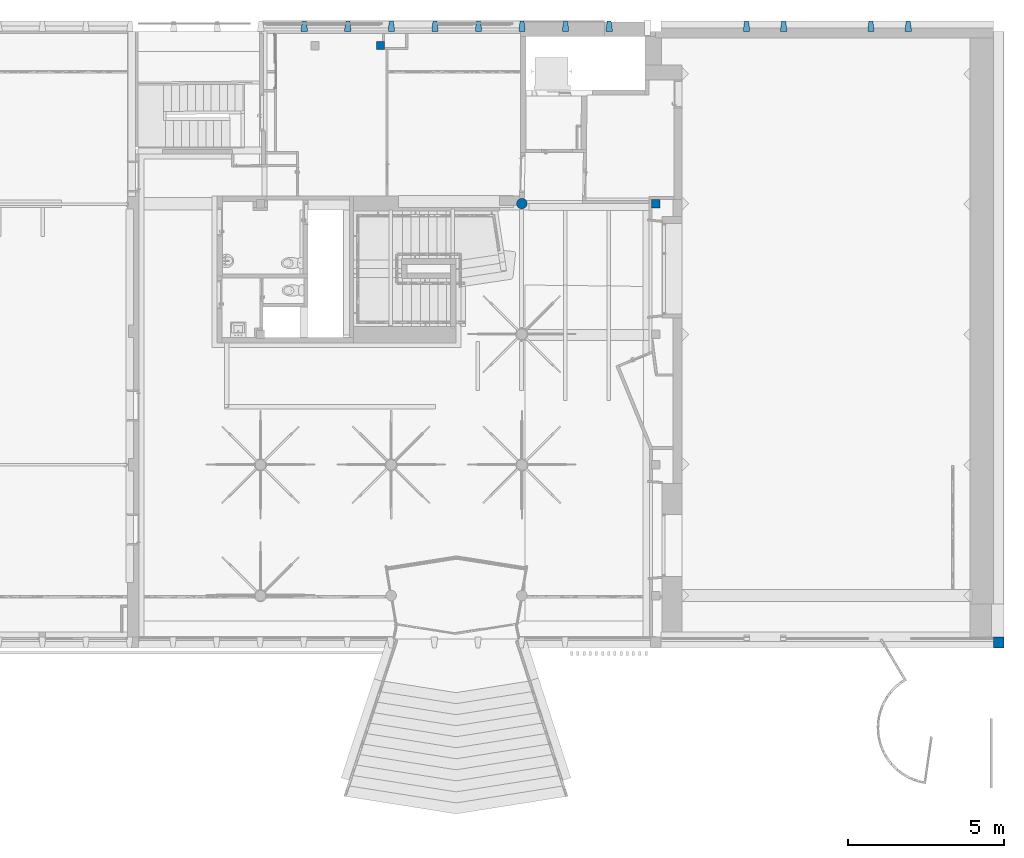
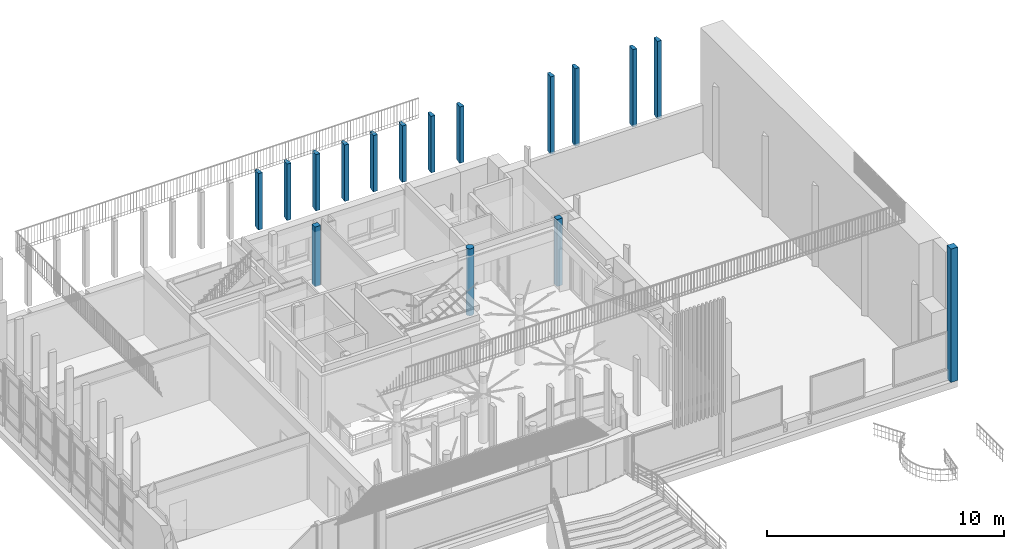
# One storey, part 3 of 65: 16 columns.
"""IFC4 building model written with IfcOpenShell, lengths in metres."""

from ifc_helpers import new_model, entity, si_unit, converted_unit, derived_unit, direction, frame, origin, place, context, subcontext, project, spatial, indexed_curve, outline, extrude, source, transform, mapped, material, material_list, type_object, type_shapes, element, save


model = new_model("IFC4")

# Units and contexts
model_context = context("Model", 3, precision=1e-05, world=origin(), true_north=direction((6.12303176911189e-17, 1.0)))
body_context = subcontext(model_context, "Body", "Model", "MODEL_VIEW")
ifc_project = project(units=[si_unit("LENGTHUNIT", "METRE"), si_unit("AREAUNIT", "SQUARE_METRE"), si_unit("VOLUMEUNIT", "CUBIC_METRE"), converted_unit("PLANEANGLEUNIT", "DEGREE", entity("IfcRatioMeasure", 0.0174532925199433), si_unit("PLANEANGLEUNIT", "RADIAN"), dimensions=[0, 0, 0, 0, 0, 0, 0]), si_unit("MASSUNIT", "GRAM", prefix="KILO"), derived_unit("MASSDENSITYUNIT", [(si_unit("MASSUNIT", "GRAM", prefix="KILO"), 1), (si_unit("LENGTHUNIT", "METRE"), -3)]), derived_unit("MOMENTOFINERTIAUNIT", [(si_unit("LENGTHUNIT", "METRE"), 4)]), si_unit("TIMEUNIT", "SECOND"), si_unit("FREQUENCYUNIT", "HERTZ"), si_unit("THERMODYNAMICTEMPERATUREUNIT", "DEGREE_CELSIUS"), derived_unit("THERMALTRANSMITTANCEUNIT", [(si_unit("MASSUNIT", "GRAM", prefix="KILO"), 1), (si_unit("THERMODYNAMICTEMPERATUREUNIT", "KELVIN"), -1), (si_unit("TIMEUNIT", "SECOND"), -3)]), derived_unit("VOLUMETRICFLOWRATEUNIT", [(si_unit("LENGTHUNIT", "METRE"), 3), (si_unit("TIMEUNIT", "SECOND"), -1)]), si_unit("ELECTRICCURRENTUNIT", "AMPERE"), si_unit("ELECTRICVOLTAGEUNIT", "VOLT"), si_unit("POWERUNIT", "WATT"), si_unit("FORCEUNIT", "NEWTON", prefix="KILO"), si_unit("ILLUMINANCEUNIT", "LUX"), si_unit("LUMINOUSFLUXUNIT", "LUMEN"), si_unit("LUMINOUSINTENSITYUNIT", "CANDELA"), derived_unit("USERDEFINED", [(si_unit("MASSUNIT", "GRAM", prefix="KILO"), -1), (si_unit("LENGTHUNIT", "METRE"), -2), (si_unit("TIMEUNIT", "SECOND"), 3), (si_unit("LUMINOUSFLUXUNIT", "LUMEN"), 1)]), derived_unit("LINEARVELOCITYUNIT", [(si_unit("LENGTHUNIT", "METRE"), 1), (si_unit("TIMEUNIT", "SECOND"), -1)]), si_unit("PRESSUREUNIT", "PASCAL"), derived_unit("USERDEFINED", [(si_unit("LENGTHUNIT", "METRE"), -2), (si_unit("MASSUNIT", "GRAM", prefix="KILO"), 1), (si_unit("TIMEUNIT", "SECOND"), -2)]), derived_unit("LINEARFORCEUNIT", [(si_unit("MASSUNIT", "GRAM", prefix="KILO"), 1), (si_unit("LENGTHUNIT", "METRE"), 1), (si_unit("TIMEUNIT", "SECOND"), -2), (si_unit("LENGTHUNIT", "METRE"), -1)]), derived_unit("PLANARFORCEUNIT", [(si_unit("MASSUNIT", "GRAM", prefix="KILO"), 1), (si_unit("LENGTHUNIT", "METRE"), 1), (si_unit("TIMEUNIT", "SECOND"), -2), (si_unit("LENGTHUNIT", "METRE"), -2)])], contexts=[model_context])

# Site, building, storey
site_placement = place(None, origin())
site = spatial("IfcSite", under=ifc_project, at=site_placement, Name="Default", CompositionType="ELEMENT")
building_placement = place(site_placement, origin())
building = spatial("IfcBuilding", under=site, at=building_placement, Name="HOTEL CONSULAIRE BOULOGNE SUR MER", CompositionType="ELEMENT")
storey_placement = place(building_placement, origin())
storey = spatial("IfcBuildingStorey", under=building, at=storey_placement, Name="Niveau 0", CompositionType="ELEMENT", Elevation=1.31981936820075e-13)

# Columns
ifc_material_1 = material(Name="Maçonnerie - Béton coulé sur place", Category="Béton")
column_type_1 = type_object("IfcColumnType", Name="Poteau béton - Arrondi:340", PredefinedType="COLUMN", material=ifc_material_1)
shared_shape_1 = source(origin(), body_context, "Body", "SweptSolid", [
    extrude(outline(indexed_curve([(0.169999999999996, 0.0), (0.161679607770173, 0.0525328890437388), (0.137532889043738, 0.0999234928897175), (0.0999234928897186, 0.137532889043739), (0.0525328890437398, 0.161679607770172), (0.0, 0.169999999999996), (-0.0525328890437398, 0.161679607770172), (-0.0999234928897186, 0.137532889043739), (-0.137532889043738, 0.0999234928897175), (-0.161679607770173, 0.0525328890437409), (-0.169999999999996, 0.0), (-0.161679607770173, -0.0525328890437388), (-0.137532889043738, -0.0999234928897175), (-0.0999234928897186, -0.137532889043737), (-0.0525328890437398, -0.161679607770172), (0.0, -0.169999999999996), (0.0525328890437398, -0.161679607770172), (0.0999234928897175, -0.137532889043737), (0.137532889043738, -0.0999234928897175), (0.161679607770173, -0.0525328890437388), (0.169999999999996, 0.0)], self_intersect=False)), frame((7.17117677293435, -15.615909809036, -0.0199999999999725)), (0.0, 0.0, 1.0), 3.44152697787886),
])
type_shapes(column_type_1, [shared_shape_1])
column_1_placement = place(storey_placement, origin())
element("IfcColumn", 1, at=column_1_placement, inside=storey, type_object=column_type_1, material=ifc_material_1, Name="Poteau béton - Arrondi:340", ObjectType="Poteau béton - Arrondi:340", PredefinedType="COLUMN", context=body_context, shape_type="MappedRepresentation", body=[
    mapped(shared_shape_1, transform((0.0, 0.0, 0.0), scale=1.0)),
])
column_type_2 = type_object("IfcColumnType", Name="Poteau béton - Rectangulaire:270x270", PredefinedType="COLUMN", material=ifc_material_1)
shared_shape_2 = source(origin(), body_context, "Body", "SweptSolid", [
    extrude(outline(indexed_curve([(-0.135, -0.135), (0.135, -0.135), (0.135, 0.135), (-0.135, 0.135), (-0.135, -0.135)], self_intersect=False)), frame((2.62811770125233, -10.5359187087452, -0.0199999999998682), z_axis=(0.0, 0.0, 1.0), x_axis=(0.0, -1.0, 0.0)), (0.0, 0.0, 1.0), 3.0711269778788),
])
type_shapes(column_type_2, [shared_shape_2])
column_2_placement = place(storey_placement, origin())
element("IfcColumn", 2, at=column_2_placement, inside=storey, type_object=column_type_2, material=ifc_material_1, Name="Poteau béton - Rectangulaire:270x270", ObjectType="Poteau béton - Rectangulaire:270x270", PredefinedType="COLUMN", context=body_context, shape_type="MappedRepresentation", body=[
    mapped(shared_shape_2, transform((0.0, 0.0, 0.0), scale=1.0)),
])
ifc_material_2 = material(Name="peinture bleu")
ifc_material_list_1 = material_list([ifc_material_1, ifc_material_2])
column_type_3 = type_object("IfcColumnType", Name="Poteau béton - Rectangulaire:340x340", PredefinedType="COLUMN", material=ifc_material_list_1)
shared_shape_3 = source(origin(), body_context, "Body", "SweptSolid", [
    extrude(outline(indexed_curve([(-0.17, -0.17), (0.17, -0.17), (0.17, 0.17), (-0.17, 0.17), (-0.17, -0.17)], self_intersect=False)), frame((22.4986382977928, -29.7240671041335, -0.219999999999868), z_axis=(0.0, 0.0, 1.0), x_axis=(0.0, -1.0, 0.0)), (0.0, 0.0, 1.0), 6.85199999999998),
])
type_shapes(column_type_3, [shared_shape_3])
column_3_placement = place(storey_placement, origin())
element("IfcColumn", 3, at=column_3_placement, inside=storey, type_object=column_type_3, material=ifc_material_2, Name="Poteau béton - Rectangulaire:340x340", ObjectType="Poteau béton - Rectangulaire:340x340", PredefinedType="COLUMN", context=body_context, shape_type="MappedRepresentation", body=[
    mapped(shared_shape_3, transform((0.0, 0.0, 0.0), scale=1.0)),
])
ifc_material_3 = material(Name="Finition Peinture - Blanc satiné", Category="Peinture")
ifc_material_4 = material(Name="<Unnamed>")
ifc_material_list_2 = material_list([ifc_material_3, ifc_material_4])
column_type_4 = type_object("IfcColumnType", Name="Poteaux porteurs 52:Poteaux porteurs 1", PredefinedType="COLUMN", material=ifc_material_list_2)
shared_shape_4 = source(origin(), body_context, "Body", "SweptSolid", [
    extrude(outline(indexed_curve([(-0.140333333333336, -0.100000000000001), (-0.0593333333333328, -0.100000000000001), (0.199666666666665, -0.0611499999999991), (0.199666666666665, 0.0611499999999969), (-0.0593333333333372, 0.0999999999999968), (-0.140333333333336, 0.0999999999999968), (-0.140333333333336, -0.100000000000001)], self_intersect=False)), frame((-11.0414199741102, -29.6944004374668, 2.30400000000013), z_axis=(0.0, 0.0, 1.0), x_axis=(0.0, -1.0, 0.0)), (0.0, 0.0, 1.0), 3.98799999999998),
])
type_shapes(column_type_4, [shared_shape_4])
column_4_placement = place(storey_placement, frame((8.54816005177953, -39.6397356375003, 0.0), z_axis=(0.0, 0.0, 1.0), x_axis=(-1.0, 0.0, 0.0)))
element("IfcColumn", 4, at=column_4_placement, inside=storey, type_object=column_type_4, material=ifc_material_3, Name="Poteaux porteurs 52:Poteaux porteurs 1", ObjectType="Poteaux porteurs 52:Poteaux porteurs 1", PredefinedType="COLUMN", context=body_context, shape_type="MappedRepresentation", body=[
    mapped(shared_shape_4, transform((0.0, 0.0, 0.0), scale=1.0)),
])
ifc_material_list_3 = material_list([ifc_material_4, ifc_material_3])
column_type_5 = type_object("IfcColumnType", Name="Poteaux porteurs 55:Poteaux porteurs 1", PredefinedType="COLUMN", material=ifc_material_list_3)
shared_shape_5 = source(origin(), body_context, "Body", "SweptSolid", [
    extrude(outline(indexed_curve([(-0.140333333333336, -0.100000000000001), (-0.0593333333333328, -0.100000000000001), (0.199666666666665, -0.0611499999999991), (0.199666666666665, 0.0611499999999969), (-0.0593333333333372, 0.0999999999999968), (-0.140333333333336, 0.0999999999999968), (-0.140333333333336, -0.100000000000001)], self_intersect=False)), frame((-11.0414199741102, -29.6944004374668, 2.30400000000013), z_axis=(0.0, 0.0, 1.0), x_axis=(0.0, -1.0, 0.0)), (0.0, 0.0, 1.0), 3.98799999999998),
])
type_shapes(column_type_5, [shared_shape_5])
column_5_placement = place(storey_placement, frame((7.34963451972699, -39.6397356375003, 0.0), z_axis=(0.0, 0.0, 1.0), x_axis=(-1.0, 0.0, 0.0)))
element("IfcColumn", 5, at=column_5_placement, inside=storey, type_object=column_type_5, material=ifc_material_3, Name="Poteaux porteurs 55:Poteaux porteurs 1", ObjectType="Poteaux porteurs 55:Poteaux porteurs 1", PredefinedType="COLUMN", context=body_context, shape_type="MappedRepresentation", body=[
    mapped(shared_shape_5, transform((0.0, 0.0, 0.0), scale=1.0)),
])
ifc_material_list_4 = material_list([ifc_material_3, ifc_material_4])
column_type_6 = type_object("IfcColumnType", Name="Poteaux porteurs 56:Poteaux porteurs 1", PredefinedType="COLUMN", material=ifc_material_list_4)
shared_shape_6 = source(origin(), body_context, "Body", "SweptSolid", [
    extrude(outline(indexed_curve([(-0.140333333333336, -0.100000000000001), (-0.0593333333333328, -0.100000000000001), (0.199666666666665, -0.0611499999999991), (0.199666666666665, 0.0611499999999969), (-0.0593333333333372, 0.0999999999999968), (-0.140333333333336, 0.0999999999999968), (-0.140333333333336, -0.100000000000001)], self_intersect=False)), frame((-11.0414199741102, -29.6944004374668, 2.30400000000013), z_axis=(0.0, 0.0, 1.0), x_axis=(0.0, -1.0, 0.0)), (0.0, 0.0, 1.0), 3.98799999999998),
])
type_shapes(column_type_6, [shared_shape_6])
column_6_placement = place(storey_placement, frame((4.5461252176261, -39.6397356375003, 0.0), z_axis=(0.0, 0.0, 1.0), x_axis=(-1.0, 0.0, 0.0)))
element("IfcColumn", 6, at=column_6_placement, inside=storey, type_object=column_type_6, material=ifc_material_3, Name="Poteaux porteurs 56:Poteaux porteurs 1", ObjectType="Poteaux porteurs 56:Poteaux porteurs 1", PredefinedType="COLUMN", context=body_context, shape_type="MappedRepresentation", body=[
    mapped(shared_shape_6, transform((0.0, 0.0, 0.0), scale=1.0)),
])
ifc_material_list_5 = material_list([ifc_material_3, ifc_material_4])
column_type_7 = type_object("IfcColumnType", Name="Poteaux porteurs 57:Poteaux porteurs 1", PredefinedType="COLUMN", material=ifc_material_list_5)
shared_shape_7 = source(origin(), body_context, "Body", "SweptSolid", [
    extrude(outline(indexed_curve([(-0.140333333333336, -0.100000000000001), (-0.0593333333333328, -0.100000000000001), (0.199666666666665, -0.0611499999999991), (0.199666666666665, 0.0611499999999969), (-0.0593333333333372, 0.0999999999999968), (-0.140333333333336, 0.0999999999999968), (-0.140333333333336, -0.100000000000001)], self_intersect=False)), frame((-11.0414199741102, -29.6944004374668, 2.30400000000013), z_axis=(0.0, 0.0, 1.0), x_axis=(0.0, -1.0, 0.0)), (0.0, 0.0, 1.0), 3.98799999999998),
])
type_shapes(column_type_7, [shared_shape_7])
column_7_placement = place(storey_placement, frame((3.35161668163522, -39.6397356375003, 0.0), z_axis=(0.0, 0.0, 1.0), x_axis=(-1.0, 0.0, 0.0)))
element("IfcColumn", 7, at=column_7_placement, inside=storey, type_object=column_type_7, material=ifc_material_3, Name="Poteaux porteurs 57:Poteaux porteurs 1", ObjectType="Poteaux porteurs 57:Poteaux porteurs 1", PredefinedType="COLUMN", context=body_context, shape_type="MappedRepresentation", body=[
    mapped(shared_shape_7, transform((0.0, 0.0, 0.0), scale=1.0)),
])
ifc_material_list_6 = material_list([ifc_material_4, ifc_material_3])
column_type_8 = type_object("IfcColumnType", Name="Poteaux porteurs 65:Poteaux porteurs 1", PredefinedType="COLUMN", material=ifc_material_list_6)
shared_shape_8 = source(origin(), body_context, "Body", "SweptSolid", [
    extrude(outline(indexed_curve([(-0.140333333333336, -0.100000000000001), (-0.0593333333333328, -0.100000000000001), (0.199666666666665, -0.0611499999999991), (0.199666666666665, 0.0611499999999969), (-0.0593333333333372, 0.0999999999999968), (-0.140333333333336, 0.0999999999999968), (-0.140333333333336, -0.100000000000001)], self_intersect=False)), frame((-11.0414199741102, -29.6944004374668, 3.39112697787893), z_axis=(0.0, 0.0, 1.0), x_axis=(0.0, -1.0, 0.0)), (0.0, 0.0, 1.0), 2.90087302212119),
])
type_shapes(column_type_8, [shared_shape_8])
column_8_placement = place(storey_placement, frame((-10.8638416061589, -39.6397356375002, 0.0), z_axis=(0.0, 0.0, 1.0), x_axis=(-1.0, 0.0, 0.0)))
element("IfcColumn", 8, at=column_8_placement, inside=storey, type_object=column_type_8, material=ifc_material_3, Name="Poteaux porteurs 65:Poteaux porteurs 1", ObjectType="Poteaux porteurs 65:Poteaux porteurs 1", PredefinedType="COLUMN", context=body_context, shape_type="MappedRepresentation", body=[
    mapped(shared_shape_8, transform((0.0, 0.0, 0.0), scale=1.0)),
])
ifc_material_list_7 = material_list([ifc_material_4, ifc_material_3])
column_type_9 = type_object("IfcColumnType", Name="Poteaux porteurs 66:Poteaux porteurs 1", PredefinedType="COLUMN", material=ifc_material_list_7)
shared_shape_9 = source(origin(), body_context, "Body", "SweptSolid", [
    extrude(outline(indexed_curve([(-0.140333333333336, -0.100000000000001), (-0.0593333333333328, -0.100000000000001), (0.199666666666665, -0.0611499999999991), (0.199666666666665, 0.0611499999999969), (-0.0593333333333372, 0.0999999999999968), (-0.140333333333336, 0.0999999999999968), (-0.140333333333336, -0.100000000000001)], self_intersect=False)), frame((-11.0414199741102, -29.6944004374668, 3.39112697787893), z_axis=(0.0, 0.0, 1.0), x_axis=(0.0, -1.0, 0.0)), (0.0, 0.0, 1.0), 2.90087302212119),
])
type_shapes(column_type_9, [shared_shape_9])
column_9_placement = place(storey_placement, frame((-9.46384160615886, -39.6397356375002, 0.0), z_axis=(0.0, 0.0, 1.0), x_axis=(-1.0, 0.0, 0.0)))
element("IfcColumn", 9, at=column_9_placement, inside=storey, type_object=column_type_9, material=ifc_material_3, Name="Poteaux porteurs 66:Poteaux porteurs 1", ObjectType="Poteaux porteurs 66:Poteaux porteurs 1", PredefinedType="COLUMN", context=body_context, shape_type="MappedRepresentation", body=[
    mapped(shared_shape_9, transform((0.0, 0.0, 0.0), scale=1.0)),
])
ifc_material_list_8 = material_list([ifc_material_3, ifc_material_4])
column_type_10 = type_object("IfcColumnType", Name="Poteaux porteurs 67:Poteaux porteurs 1", PredefinedType="COLUMN", material=ifc_material_list_8)
shared_shape_10 = source(origin(), body_context, "Body", "SweptSolid", [
    extrude(outline(indexed_curve([(-0.140333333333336, -0.100000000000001), (-0.0593333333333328, -0.100000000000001), (0.199666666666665, -0.0611499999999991), (0.199666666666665, 0.0611499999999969), (-0.0593333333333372, 0.0999999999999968), (-0.140333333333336, 0.0999999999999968), (-0.140333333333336, -0.100000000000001)], self_intersect=False)), frame((-11.0414199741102, -29.6944004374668, 3.39112697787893), z_axis=(0.0, 0.0, 1.0), x_axis=(0.0, -1.0, 0.0)), (0.0, 0.0, 1.0), 2.90087302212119),
])
type_shapes(column_type_10, [shared_shape_10])
column_10_placement = place(storey_placement, frame((-8.06384160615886, -39.6397356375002, 0.0), z_axis=(0.0, 0.0, 1.0), x_axis=(-1.0, 0.0, 0.0)))
element("IfcColumn", 10, at=column_10_placement, inside=storey, type_object=column_type_10, material=ifc_material_3, Name="Poteaux porteurs 67:Poteaux porteurs 1", ObjectType="Poteaux porteurs 67:Poteaux porteurs 1", PredefinedType="COLUMN", context=body_context, shape_type="MappedRepresentation", body=[
    mapped(shared_shape_10, transform((0.0, 0.0, 0.0), scale=1.0)),
])
ifc_material_list_9 = material_list([ifc_material_4, ifc_material_3])
column_type_11 = type_object("IfcColumnType", Name="Poteaux porteurs 68:Poteaux porteurs 1", PredefinedType="COLUMN", material=ifc_material_list_9)
shared_shape_11 = source(origin(), body_context, "Body", "SweptSolid", [
    extrude(outline(indexed_curve([(-0.140333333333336, -0.100000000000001), (-0.0593333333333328, -0.100000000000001), (0.199666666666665, -0.0611499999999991), (0.199666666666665, 0.0611499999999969), (-0.0593333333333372, 0.0999999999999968), (-0.140333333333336, 0.0999999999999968), (-0.140333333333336, -0.100000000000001)], self_intersect=False)), frame((-11.0414199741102, -29.6944004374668, 3.39112697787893), z_axis=(0.0, 0.0, 1.0), x_axis=(0.0, -1.0, 0.0)), (0.0, 0.0, 1.0), 2.90087302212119),
])
type_shapes(column_type_11, [shared_shape_11])
column_11_placement = place(storey_placement, frame((-6.66384160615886, -39.6397356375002, 0.0), z_axis=(0.0, 0.0, 1.0), x_axis=(-1.0, 0.0, 0.0)))
element("IfcColumn", 11, at=column_11_placement, inside=storey, type_object=column_type_11, material=ifc_material_3, Name="Poteaux porteurs 68:Poteaux porteurs 1", ObjectType="Poteaux porteurs 68:Poteaux porteurs 1", PredefinedType="COLUMN", context=body_context, shape_type="MappedRepresentation", body=[
    mapped(shared_shape_11, transform((0.0, 0.0, 0.0), scale=1.0)),
])
ifc_material_list_10 = material_list([ifc_material_4, ifc_material_3])
column_type_12 = type_object("IfcColumnType", Name="Poteaux porteurs 69:Poteaux porteurs 1", PredefinedType="COLUMN", material=ifc_material_list_10)
shared_shape_12 = source(origin(), body_context, "Body", "SweptSolid", [
    extrude(outline(indexed_curve([(-0.140333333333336, -0.100000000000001), (-0.0593333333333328, -0.100000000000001), (0.199666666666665, -0.0611499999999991), (0.199666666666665, 0.0611499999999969), (-0.0593333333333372, 0.0999999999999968), (-0.140333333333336, 0.0999999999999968), (-0.140333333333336, -0.100000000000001)], self_intersect=False)), frame((-11.0414199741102, -29.6944004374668, 3.39112697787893), z_axis=(0.0, 0.0, 1.0), x_axis=(0.0, -1.0, 0.0)), (0.0, 0.0, 1.0), 2.90087302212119),
])
type_shapes(column_type_12, [shared_shape_12])
column_12_placement = place(storey_placement, frame((-5.26384160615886, -39.6397356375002, 0.0), z_axis=(0.0, 0.0, 1.0), x_axis=(-1.0, 0.0, 0.0)))
element("IfcColumn", 12, at=column_12_placement, inside=storey, type_object=column_type_12, material=ifc_material_3, Name="Poteaux porteurs 69:Poteaux porteurs 1", ObjectType="Poteaux porteurs 69:Poteaux porteurs 1", PredefinedType="COLUMN", context=body_context, shape_type="MappedRepresentation", body=[
    mapped(shared_shape_12, transform((0.0, 0.0, 0.0), scale=1.0)),
])
ifc_material_list_11 = material_list([ifc_material_4, ifc_material_3])
column_type_13 = type_object("IfcColumnType", Name="Poteaux porteurs 70:Poteaux porteurs 1", PredefinedType="COLUMN", material=ifc_material_list_11)
shared_shape_13 = source(origin(), body_context, "Body", "SweptSolid", [
    extrude(outline(indexed_curve([(-0.140333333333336, -0.100000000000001), (-0.0593333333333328, -0.100000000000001), (0.199666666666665, -0.0611499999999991), (0.199666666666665, 0.0611499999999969), (-0.0593333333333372, 0.0999999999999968), (-0.140333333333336, 0.0999999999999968), (-0.140333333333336, -0.100000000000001)], self_intersect=False)), frame((-11.0414199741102, -29.6944004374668, 3.39112697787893), z_axis=(0.0, 0.0, 1.0), x_axis=(0.0, -1.0, 0.0)), (0.0, 0.0, 1.0), 2.90087302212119),
])
type_shapes(column_type_13, [shared_shape_13])
column_13_placement = place(storey_placement, frame((-3.86384160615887, -39.6397356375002, 0.0), z_axis=(0.0, 0.0, 1.0), x_axis=(-1.0, 0.0, 0.0)))
element("IfcColumn", 13, at=column_13_placement, inside=storey, type_object=column_type_13, material=ifc_material_3, Name="Poteaux porteurs 70:Poteaux porteurs 1", ObjectType="Poteaux porteurs 70:Poteaux porteurs 1", PredefinedType="COLUMN", context=body_context, shape_type="MappedRepresentation", body=[
    mapped(shared_shape_13, transform((0.0, 0.0, 0.0), scale=1.0)),
])
ifc_material_list_12 = material_list([ifc_material_3, ifc_material_4])
column_type_14 = type_object("IfcColumnType", Name="Poteaux porteurs 71:Poteaux porteurs 1", PredefinedType="COLUMN", material=ifc_material_list_12)
shared_shape_14 = source(origin(), body_context, "Body", "SweptSolid", [
    extrude(outline(indexed_curve([(-0.140333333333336, -0.100000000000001), (-0.0593333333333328, -0.100000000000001), (0.199666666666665, -0.0611499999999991), (0.199666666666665, 0.0611499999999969), (-0.0593333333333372, 0.0999999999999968), (-0.140333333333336, 0.0999999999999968), (-0.140333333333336, -0.100000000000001)], self_intersect=False)), frame((-11.0414199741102, -29.6944004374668, 3.39112697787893), z_axis=(0.0, 0.0, 1.0), x_axis=(0.0, -1.0, 0.0)), (0.0, 0.0, 1.0), 2.90087302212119),
])
type_shapes(column_type_14, [shared_shape_14])
column_14_placement = place(storey_placement, frame((-2.46384160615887, -39.6397356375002, 0.0), z_axis=(0.0, 0.0, 1.0), x_axis=(-1.0, 0.0, 0.0)))
element("IfcColumn", 14, at=column_14_placement, inside=storey, type_object=column_type_14, material=ifc_material_3, Name="Poteaux porteurs 71:Poteaux porteurs 1", ObjectType="Poteaux porteurs 71:Poteaux porteurs 1", PredefinedType="COLUMN", context=body_context, shape_type="MappedRepresentation", body=[
    mapped(shared_shape_14, transform((0.0, 0.0, 0.0), scale=1.0)),
])
ifc_material_list_13 = material_list([ifc_material_4, ifc_material_3])
column_type_15 = type_object("IfcColumnType", Name="Poteaux porteurs 72:Poteaux porteurs 1", PredefinedType="COLUMN", material=ifc_material_list_13)
shared_shape_15 = source(origin(), body_context, "Body", "SweptSolid", [
    extrude(outline(indexed_curve([(-0.140333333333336, -0.100000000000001), (-0.0593333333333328, -0.100000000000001), (0.199666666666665, -0.0611499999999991), (0.199666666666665, 0.0611499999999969), (-0.0593333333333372, 0.0999999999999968), (-0.140333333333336, 0.0999999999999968), (-0.140333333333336, -0.100000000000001)], self_intersect=False)), frame((-11.0414199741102, -29.6944004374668, 3.39112697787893), z_axis=(0.0, 0.0, 1.0), x_axis=(0.0, -1.0, 0.0)), (0.0, 0.0, 1.0), 2.90087302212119),
])
type_shapes(column_type_15, [shared_shape_15])
column_15_placement = place(storey_placement, frame((-1.06384160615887, -39.6397356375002, 0.0), z_axis=(0.0, 0.0, 1.0), x_axis=(-1.0, 0.0, 0.0)))
element("IfcColumn", 15, at=column_15_placement, inside=storey, type_object=column_type_15, material=ifc_material_3, Name="Poteaux porteurs 72:Poteaux porteurs 1", ObjectType="Poteaux porteurs 72:Poteaux porteurs 1", PredefinedType="COLUMN", context=body_context, shape_type="MappedRepresentation", body=[
    mapped(shared_shape_15, transform((0.0, 0.0, 0.0), scale=1.0)),
])
column_type_16 = type_object("IfcColumnType", Name="Poteau béton - Rectangulaire:270x270", PredefinedType="COLUMN", material=ifc_material_1)
shared_shape_16 = source(origin(), body_context, "Body", "SweptSolid", [
    extrude(outline(indexed_curve([(-0.135, -0.135), (0.135, -0.135), (0.135, 0.135), (-0.135, 0.135), (-0.135, -0.135)], self_intersect=False)), frame((11.4766382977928, -15.615909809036, -0.0199999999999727), z_axis=(0.0, 0.0, 1.0), x_axis=(0.0, -1.0, 0.0)), (0.0, 0.0, 1.0), 3.44152697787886),
])
type_shapes(column_type_16, [shared_shape_16])
column_16_placement = place(storey_placement, origin())
element("IfcColumn", 16, at=column_16_placement, inside=storey, type_object=column_type_16, material=ifc_material_1, Name="Poteau béton - Rectangulaire:270x270", ObjectType="Poteau béton - Rectangulaire:270x270", PredefinedType="COLUMN", context=body_context, shape_type="MappedRepresentation", body=[
    mapped(shared_shape_16, transform((0.0, 0.0, 0.0), scale=1.0)),
])

save(model, "model.ifc")
